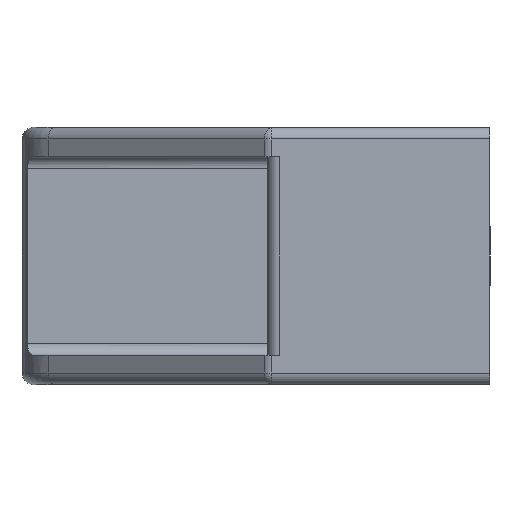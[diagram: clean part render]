
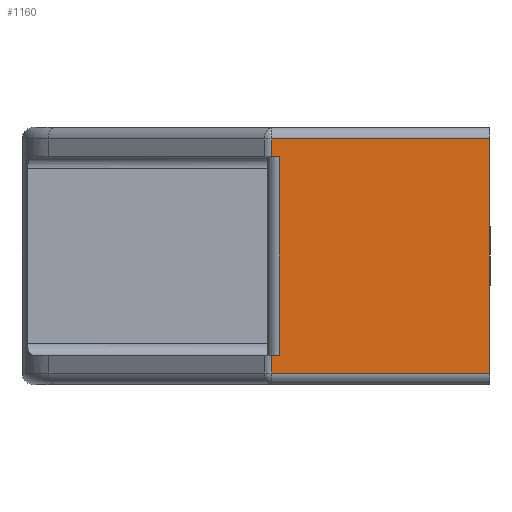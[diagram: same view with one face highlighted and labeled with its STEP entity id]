
A CAD part, left-side view. The second image highlights one B-rep face of the part: STEP entity #1160.
In plain terms, the highlighted planar face has unit normal (-1, 0, 0).
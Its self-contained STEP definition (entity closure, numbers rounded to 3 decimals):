
#52=PLANE('',#1304);
#124=FACE_OUTER_BOUND('',#199,.T.);
#199=EDGE_LOOP('',(#1007,#1008,#1009,#1010,#1011,#1012,#1013,#1014));
#236=LINE('',#1786,#319);
#247=LINE('',#1839,#330);
#250=LINE('',#1847,#333);
#259=LINE('',#1874,#342);
#261=LINE('',#1883,#344);
#293=LINE('',#2037,#376);
#294=LINE('',#2042,#377);
#298=LINE('',#2061,#381);
#319=VECTOR('',#1406,20.);
#330=VECTOR('',#1463,1.5);
#333=VECTOR('',#1472,18.646);
#342=VECTOR('',#1499,18.646);
#344=VECTOR('',#1509,1.5);
#376=VECTOR('',#1633,0.646);
#377=VECTOR('',#1638,17.);
#381=VECTOR('',#1666,0.646);
#487=VERTEX_POINT('',#1783);
#488=VERTEX_POINT('',#1785);
#506=VERTEX_POINT('',#1836);
#507=VERTEX_POINT('',#1838);
#518=VERTEX_POINT('',#1873);
#519=VERTEX_POINT('',#1877);
#557=VERTEX_POINT('',#2035);
#558=VERTEX_POINT('',#2039);
#603=EDGE_CURVE('',#487,#488,#236,.T.);
#629=EDGE_CURVE('',#506,#507,#247,.T.);
#634=EDGE_CURVE('',#507,#487,#250,.T.);
#647=EDGE_CURVE('',#488,#518,#259,.T.);
#652=EDGE_CURVE('',#518,#519,#261,.T.);
#711=EDGE_CURVE('',#557,#506,#293,.T.);
#713=EDGE_CURVE('',#558,#557,#294,.T.);
#723=EDGE_CURVE('',#519,#558,#298,.T.);
#1007=ORIENTED_EDGE('',*,*,#629,.F.);
#1008=ORIENTED_EDGE('',*,*,#711,.F.);
#1009=ORIENTED_EDGE('',*,*,#713,.F.);
#1010=ORIENTED_EDGE('',*,*,#723,.F.);
#1011=ORIENTED_EDGE('',*,*,#652,.F.);
#1012=ORIENTED_EDGE('',*,*,#647,.F.);
#1013=ORIENTED_EDGE('',*,*,#603,.F.);
#1014=ORIENTED_EDGE('',*,*,#634,.F.);
#1160=ADVANCED_FACE('',(#124),#52,.T.);
#1304=AXIS2_PLACEMENT_3D('',#2060,#1664,#1665);
#1406=DIRECTION('',(0.,0.,-1.));
#1463=DIRECTION('',(0.,0.,1.));
#1472=DIRECTION('',(0.,-1.,0.));
#1499=DIRECTION('',(0.,1.,0.));
#1509=DIRECTION('',(0.,0.,1.));
#1633=DIRECTION('',(0.,1.,0.));
#1638=DIRECTION('',(0.,0.,1.));
#1664=DIRECTION('center_axis',(-1.,0.,0.));
#1665=DIRECTION('ref_axis',(0.,-1.,0.));
#1666=DIRECTION('',(0.,-1.,0.));
#1783=CARTESIAN_POINT('',(0.,0.,10.));
#1785=CARTESIAN_POINT('',(0.,0.,-10.));
#1786=CARTESIAN_POINT('',(0.,0.,0.));
#1836=CARTESIAN_POINT('',(0.,18.646,8.5));
#1838=CARTESIAN_POINT('',(0.,18.646,10.));
#1839=CARTESIAN_POINT('',(0.,18.646,0.));
#1847=CARTESIAN_POINT('',(0.,22.772,10.));
#1873=CARTESIAN_POINT('',(0.,18.646,-10.));
#1874=CARTESIAN_POINT('',(0.,22.772,-10.));
#1877=CARTESIAN_POINT('',(0.,18.646,-8.5));
#1883=CARTESIAN_POINT('',(0.,18.646,0.));
#2035=CARTESIAN_POINT('',(0.,18.,8.5));
#2037=CARTESIAN_POINT('',(0.,35.5,8.5));
#2039=CARTESIAN_POINT('',(0.,18.,-8.5));
#2042=CARTESIAN_POINT('',(0.,18.,0.));
#2060=CARTESIAN_POINT('Origin',(0.,19.,0.));
#2061=CARTESIAN_POINT('',(0.,35.5,-8.5));
